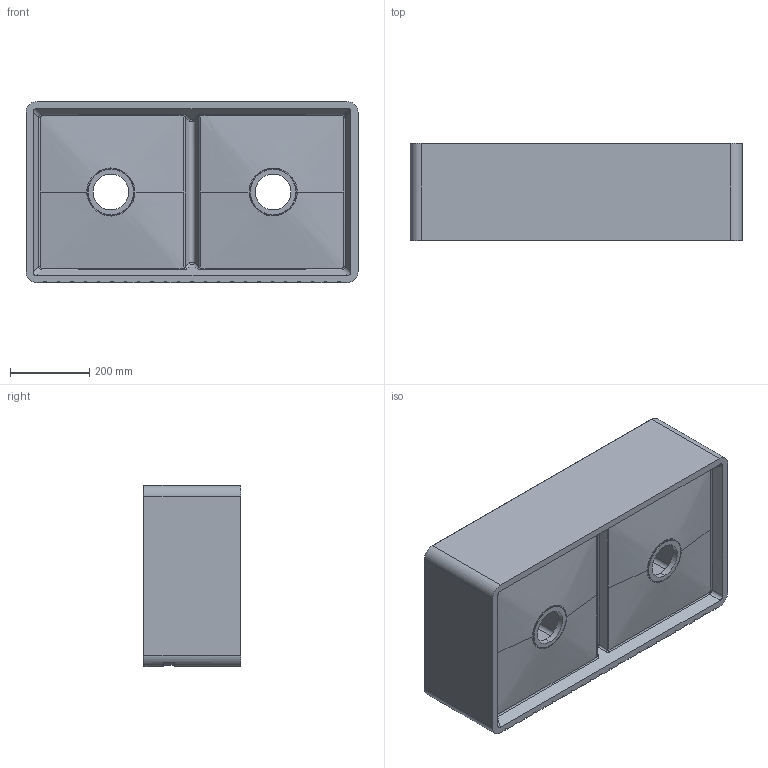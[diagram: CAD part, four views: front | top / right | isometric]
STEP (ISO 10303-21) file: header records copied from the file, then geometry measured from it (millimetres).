
FILE_DESCRIPTION (( 'STEP AP214' ), '1' );
FILE_NAME ('BEN-3904.STEP', '2020-10-28T00:20:15', ( '' ), ( '' ), 'SwSTEP 2.0', 'SolidWorks 2020', '' );
FILE_SCHEMA (( 'AUTOMOTIVE_DESIGN' ));
Length unit declared in the file: millimetre
Products named in the file (1): BEN-3904
Bounding box: 838.2 x 245 x 457.2 mm (x, y, z)
Volume: 23937889.9 mm3; surface area: 1998492 mm2
Topology: 1 solids, 1 shells, 394 faces, 1042 edges, 651 vertices
Faces by surface type: cylinder 166, plane 99, bspline 59, torus 58, sphere 12
Entity records: 32949 total; most frequent: CARTESIAN_POINT 23480, ORIENTED_EDGE 2076, DIRECTION 1944, EDGE_CURVE 1038, AXIS2_PLACEMENT_3D 761, VERTEX_POINT 651, CIRCLE 425, VECTOR 422
